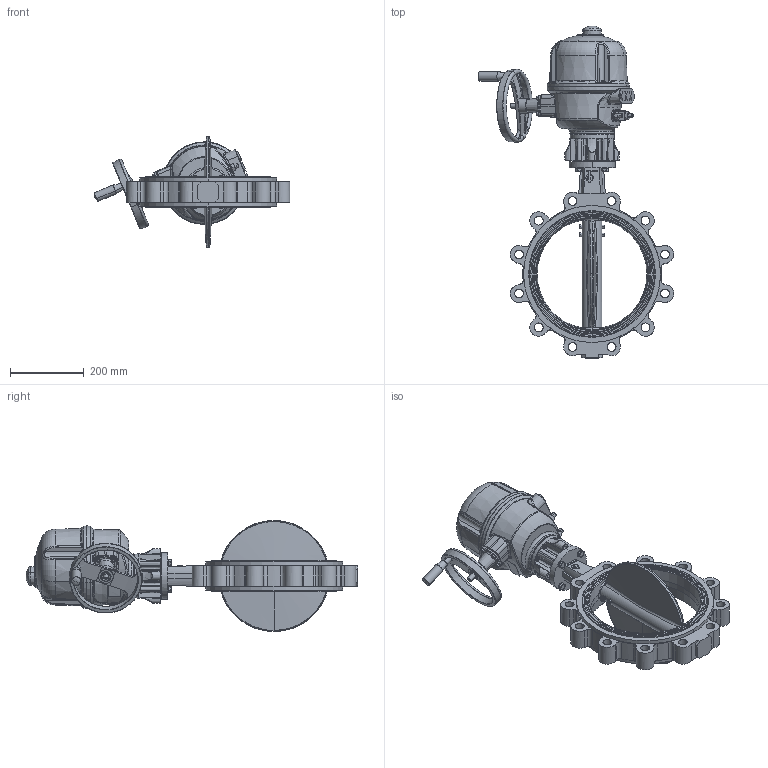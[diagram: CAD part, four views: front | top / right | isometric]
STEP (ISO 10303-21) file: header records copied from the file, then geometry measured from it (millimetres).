
FILE_DESCRIPTION (( 'STEP AP214' ), '1' );
FILE_NAME ('VPG464X-BX4XX0300.step', '2022-09-20T11:26:25', ( '' ), ( '' ), 'SwSTEP 2.0', 'SolidWorks 2020', '' );
FILE_SCHEMA (( 'AUTOMOTIVE_DESIGN' ));
Length unit declared in the file: millimetre
Products named in the file (1): VPG464X-BX4XX0300
Bounding box: 531.18 x 901.5 x 301.6 mm (x, y, z)
Surface area: 1032607.9 mm2 (no closed solid volume)
Topology: 0 solids, 77 shells, 1048 faces, 5319 edges, 4215 vertices
Faces by surface type: plane 337, cylinder 249, bspline 208, cone 128, torus 116, sphere 10
Entity records: 109881 total; most frequent: CARTESIAN_POINT 64571, ORIENTED_EDGE 7384, EDGE_CURVE 5283, VERTEX_POINT 4213, DIRECTION 4061, B_SPLINE_CURVE_WITH_KNOTS 3134, LINE 1681, VECTOR 1681
